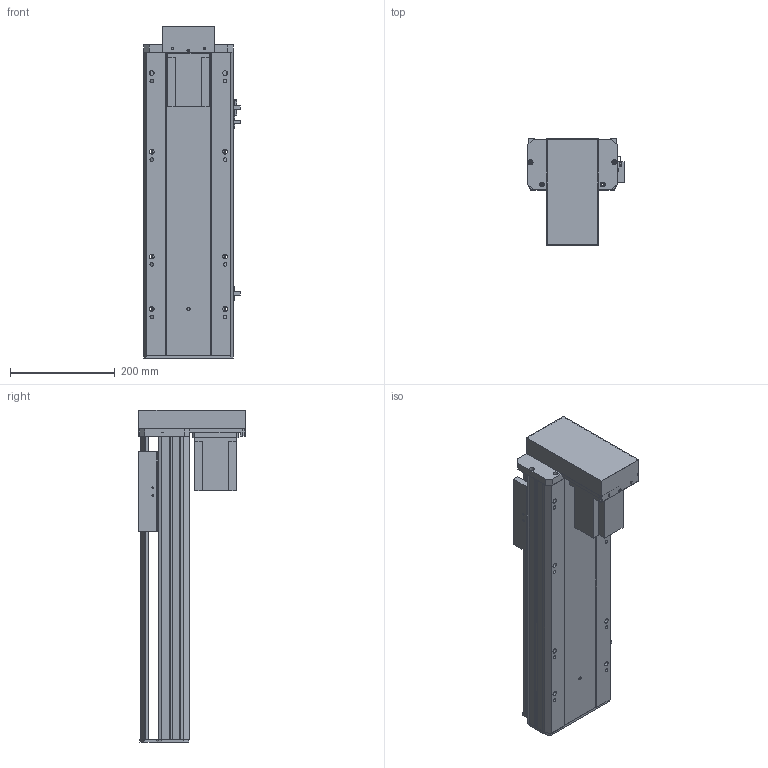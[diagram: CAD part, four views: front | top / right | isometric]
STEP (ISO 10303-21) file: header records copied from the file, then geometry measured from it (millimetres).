
FILE_DESCRIPTION (( 'STEP AP203' ), '1' );
FILE_NAME ('Y170-D10-S350-BM-P750W.STEP', '2020-01-22T02:53:44', ( '微软用户' ), ( '微软中国' ), 'SwSTEP 2.0', 'SolidWorks 2017', '' );
FILE_SCHEMA (( 'CONFIG_CONTROL_DESIGN' ));
Length unit declared in the file: millimetre
Products named in the file (12): -BM俋袗; Y170耜裔--準---; YD-Y100-135-新外置传感挡片(通用）; 170--掛极-BR; Y100-135俋离換覜ん; 侂狟750W; Y170-D10-S350-BM-P750W; EGH20賑輸_蕼偞; Y雄赽釱-耜蚾; Y170-陔遴奻裔-BR; 170-BM耜蚾蟀諉啣; Y170-BM--P750W楊擘啣
Assembly tree (14 placements, depth 2):
  Y170-D10-S350-BM-P750W
    Y170耜裔--準---
    170--掛极-BR
    侂狟750W
    EGH20賑輸_蕼偞  x2
    Y雄赽釱-耜蚾
    Y170-陔遴奻裔-BR
    170-BM耜蚾蟀諉啣
    Y170-BM--P750W楊擘啣
    -BM俋袗
    YD-Y100-135-新外置传感挡片(通用）
    Y100-135俋离換覜ん  x3
Bounding box: 183.5 x 203.5 x 633.5 mm (x, y, z)
Volume: 3638520.8 mm3; surface area: 1179594.3 mm2
Topology: 14 solids, 14 shells, 882 faces, 2460 edges, 1622 vertices
Faces by surface type: plane 436, cylinder 430, cone 16
Entity records: 27546 total; most frequent: CARTESIAN_POINT 4767, DIRECTION 4584, ORIENTED_EDGE 4416, EDGE_CURVE 2208, AXIS2_PLACEMENT_3D 1619, VERTEX_POINT 1466, LINE 1346, VECTOR 1346
